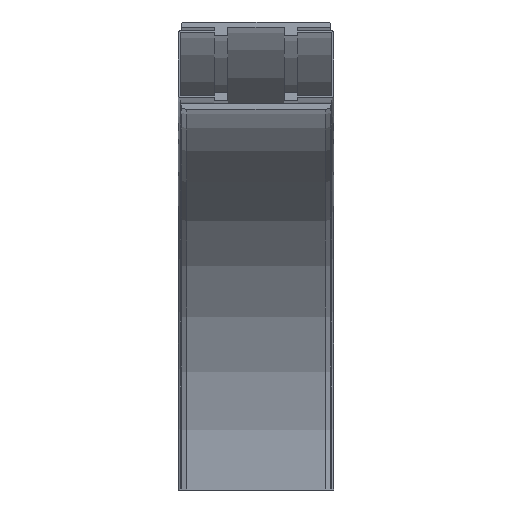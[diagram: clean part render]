
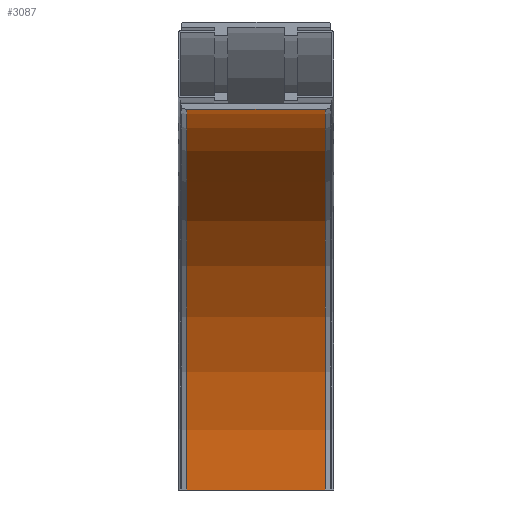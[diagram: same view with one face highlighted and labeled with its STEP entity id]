
A CAD part, front view. The second image highlights one B-rep face of the part: STEP entity #3087.
In plain terms, the highlighted cylindrical face has radius 357.5 mm (diameter 715 mm), a partial arc.
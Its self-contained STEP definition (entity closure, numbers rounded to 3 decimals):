
#3029=CARTESIAN_POINT('',(104.,-431.5,357.5));
#3030=VERTEX_POINT('',#3029);
#3037=CARTESIAN_POINT('',(104.,-74.,0.0));
#3038=VERTEX_POINT('',#3037);
#3039=CARTESIAN_POINT('',(104.,-431.5,0.));
#3040=DIRECTION('',(1.0,0.0,0.0));
#3041=DIRECTION('',(0.0,1.0,0.0));
#3042=AXIS2_PLACEMENT_3D('',#3039,#3040,#3041);
#3043=CIRCLE('',#3042,357.5);
#3044=EDGE_CURVE('',#3038,#3030,#3043,.T.);
#3056=CARTESIAN_POINT('',(39.,-431.5,0.));
#3057=DIRECTION('',(1.0,0.0,0.0));
#3058=DIRECTION('',(0.0,1.0,0.0));
#3059=AXIS2_PLACEMENT_3D('',#3056,#3057,#3058);
#3060=CYLINDRICAL_SURFACE('',#3059,357.5);
#3061=CARTESIAN_POINT('',(-26.,-431.5,357.5));
#3062=VERTEX_POINT('',#3061);
#3063=CARTESIAN_POINT('',(104.0,-431.5,357.5));
#3064=DIRECTION('',(-1.0,0.0,0.0));
#3065=VECTOR('',#3064,130.);
#3066=LINE('',#3063,#3065);
#3067=EDGE_CURVE('',#3030,#3062,#3066,.T.);
#3068=ORIENTED_EDGE('',*,*,#3067,.T.);
#3069=CARTESIAN_POINT('',(-26.,-74.,0.0));
#3070=VERTEX_POINT('',#3069);
#3071=CARTESIAN_POINT('',(-26.,-431.5,0.));
#3072=DIRECTION('',(1.0,0.0,0.0));
#3073=DIRECTION('',(0.0,1.0,0.0));
#3074=AXIS2_PLACEMENT_3D('',#3071,#3072,#3073);
#3075=CIRCLE('',#3074,357.5);
#3076=EDGE_CURVE('',#3070,#3062,#3075,.T.);
#3077=ORIENTED_EDGE('',*,*,#3076,.F.);
#3078=CARTESIAN_POINT('',(-26.,-74.,0.0));
#3079=DIRECTION('',(1.0,0.0,0.0));
#3080=VECTOR('',#3079,130.);
#3081=LINE('',#3078,#3080);
#3082=EDGE_CURVE('',#3070,#3038,#3081,.T.);
#3083=ORIENTED_EDGE('',*,*,#3082,.T.);
#3084=ORIENTED_EDGE('',*,*,#3044,.T.);
#3085=EDGE_LOOP('',(#3068,#3077,#3083,#3084));
#3086=FACE_OUTER_BOUND('',#3085,.T.);
#3087=ADVANCED_FACE('',(#3086),#3060,.F.);
